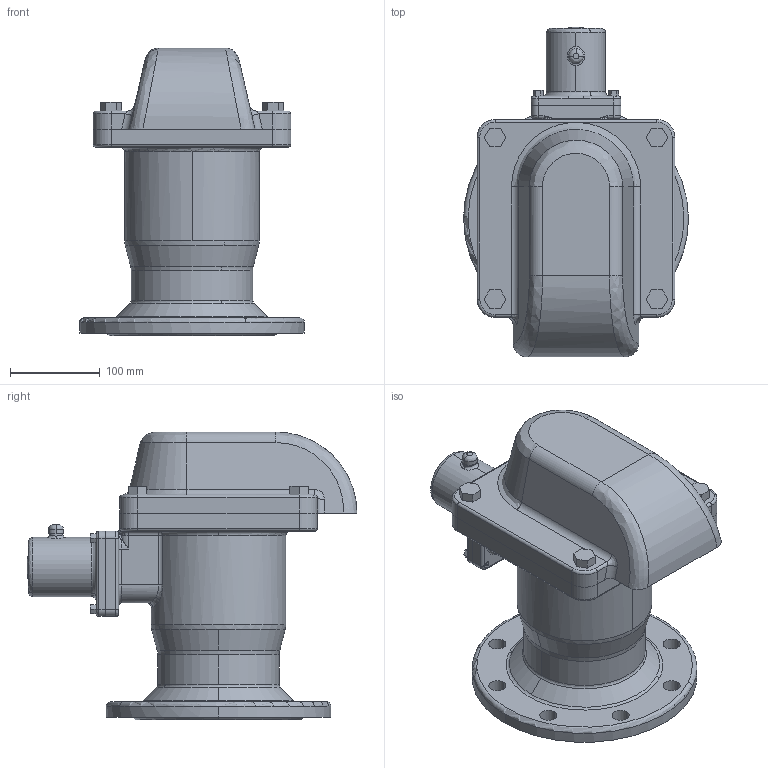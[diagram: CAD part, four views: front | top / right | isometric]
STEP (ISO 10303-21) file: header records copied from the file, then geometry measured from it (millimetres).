
FILE_DESCRIPTION (( 'STEP AP203' ), '1' );
FILE_NAME ('0.STEP', '2017-05-28T03:47:52', ( 'User' ), ( 'shendu' ), 'SwSTEP 2.0', 'SolidWorks 2015', '' );
FILE_SCHEMA (( 'CONFIG_CONTROL_DESIGN' ));
Length unit declared in the file: millimetre
Products named in the file (1): 0
Bounding box: 250 x 366.86 x 320 mm (x, y, z)
Surface area: 898658.3 mm2 (no closed solid volume)
Topology: 0 solids, 18 shells, 462 faces, 1142 edges, 710 vertices
Faces by surface type: cylinder 180, plane 135, bspline 94, cone 30, torus 23
Entity records: 27066 total; most frequent: CARTESIAN_POINT 16520, ORIENTED_EDGE 2244, DIRECTION 2056, EDGE_CURVE 1126, AXIS2_PLACEMENT_3D 788, VERTEX_POINT 710, EDGE_LOOP 537, LINE 480
